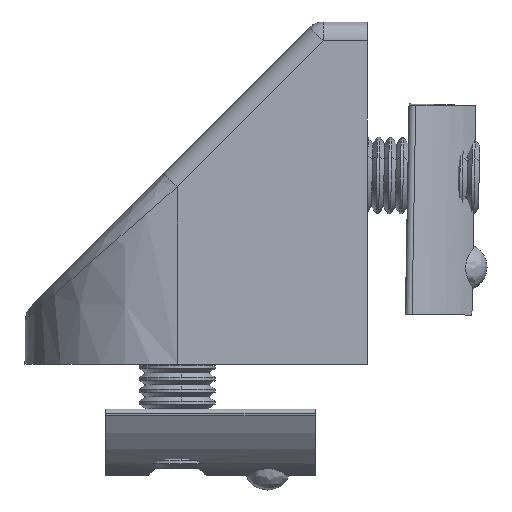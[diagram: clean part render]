
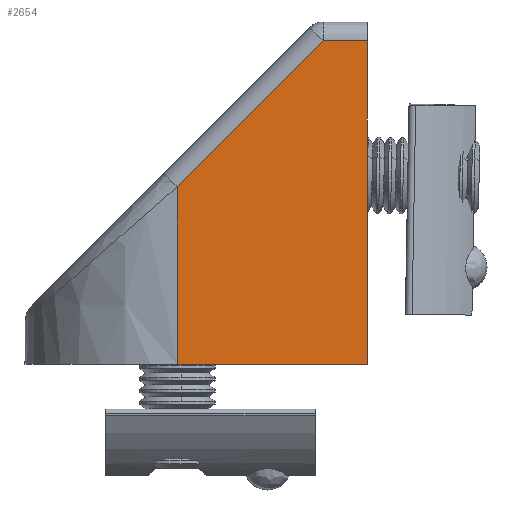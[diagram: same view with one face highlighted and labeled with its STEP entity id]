
A CAD part, front view. The second image highlights one B-rep face of the part: STEP entity #2654.
In plain terms, the highlighted planar face has unit normal (0, -1, 0.009).
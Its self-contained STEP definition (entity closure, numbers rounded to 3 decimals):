
#73 = FACE_OUTER_BOUND ( 'NONE', #1598, .T. ) ;
#144 = CARTESIAN_POINT ( 'NONE',  ( -60.584, -3.252, 15.857 ) ) ;
#383 = VERTEX_POINT ( 'NONE', #769 ) ;
#482 = EDGE_CURVE ( 'NONE', #991, #383, #6256, .T. ) ;
#533 = ORIENTED_EDGE ( 'NONE', *, *, #2669, .T. ) ;
#574 = DIRECTION ( 'NONE',  ( 0., -0.009, -1. ) ) ;
#577 = CARTESIAN_POINT ( 'NONE',  ( -75.936, -3.549, -18.16 ) ) ;
#626 = VECTOR ( 'NONE', #5844, 1000. ) ;
#640 = LINE ( 'NONE', #144, #3371 ) ;
#766 = VERTEX_POINT ( 'NONE', #3162 ) ;
#769 = CARTESIAN_POINT ( 'NONE',  ( -55.936, -3.252, 15.857 ) ) ;
#991 = VERTEX_POINT ( 'NONE', #2354 ) ;
#1013 = DIRECTION ( 'NONE',  ( 0., -1., 0.009 ) ) ;
#1429 = CARTESIAN_POINT ( 'NONE',  ( -75.936, -3.252, 15.857 ) ) ;
#1598 = EDGE_LOOP ( 'NONE', ( #3715, #5337, #3534, #533, #5456 ) ) ;
#1661 = CARTESIAN_POINT ( 'NONE',  ( -55.936, -3.549, -18.16 ) ) ;
#1917 = VERTEX_POINT ( 'NONE', #5339 ) ;
#2214 = CARTESIAN_POINT ( 'NONE',  ( -75.936, -3.386, 0.505 ) ) ;
#2285 = EDGE_CURVE ( 'NONE', #1917, #991, #3225, .T. ) ;
#2354 = CARTESIAN_POINT ( 'NONE',  ( -55.936, -3.549, -18.16 ) ) ;
#2484 = LINE ( 'NONE', #577, #626 ) ;
#2654 = ADVANCED_FACE ( 'NONE', ( #73 ), #3062, .T. ) ;
#2669 = EDGE_CURVE ( 'NONE', #766, #2812, #640, .T. ) ;
#2812 = VERTEX_POINT ( 'NONE', #2214 ) ;
#2882 = DIRECTION ( 'NONE',  ( 0., 0.009, 1. ) ) ;
#2958 = LINE ( 'NONE', #1429, #5396 ) ;
#2962 = DIRECTION ( 'NONE',  ( -0.707, -0.006, -0.707 ) ) ;
#3056 = AXIS2_PLACEMENT_3D ( 'NONE', #4455, #1013, #574 ) ;
#3062 = PLANE ( 'NONE',  #3056 ) ;
#3162 = CARTESIAN_POINT ( 'NONE',  ( -60.584, -3.252, 15.857 ) ) ;
#3225 = LINE ( 'NONE', #1661, #5368 ) ;
#3371 = VECTOR ( 'NONE', #2962, 1000. ) ;
#3534 = ORIENTED_EDGE ( 'NONE', *, *, #5519, .F. ) ;
#3715 = ORIENTED_EDGE ( 'NONE', *, *, #2285, .T. ) ;
#4114 = DIRECTION ( 'NONE',  ( 1., 0., 0. ) ) ;
#4455 = CARTESIAN_POINT ( 'NONE',  ( -55.936, -3.549, -18.16 ) ) ;
#4999 = EDGE_CURVE ( 'NONE', #2812, #1917, #2484, .T. ) ;
#5217 = CARTESIAN_POINT ( 'NONE',  ( -55.936, -3.549, -18.16 ) ) ;
#5337 = ORIENTED_EDGE ( 'NONE', *, *, #482, .T. ) ;
#5339 = CARTESIAN_POINT ( 'NONE',  ( -75.936, -3.549, -18.16 ) ) ;
#5347 = VECTOR ( 'NONE', #2882, 1000. ) ;
#5368 = VECTOR ( 'NONE', #4114, 1000. ) ;
#5396 = VECTOR ( 'NONE', #5868, 1000. ) ;
#5456 = ORIENTED_EDGE ( 'NONE', *, *, #4999, .T. ) ;
#5519 = EDGE_CURVE ( 'NONE', #766, #383, #2958, .T. ) ;
#5844 = DIRECTION ( 'NONE',  ( 0., -0.009, -1. ) ) ;
#5868 = DIRECTION ( 'NONE',  ( 1., 0., 0. ) ) ;
#6256 = LINE ( 'NONE', #5217, #5347 ) ;
